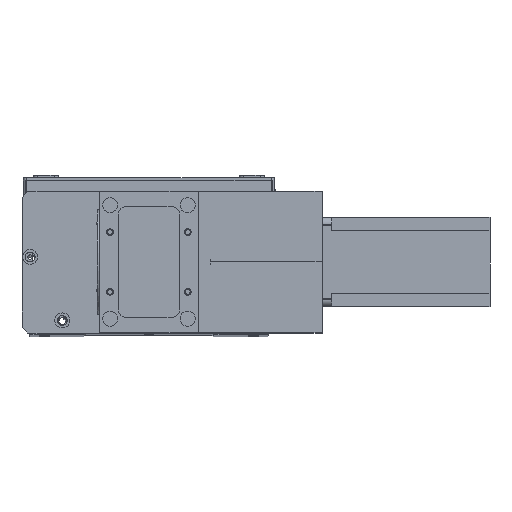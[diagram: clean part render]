
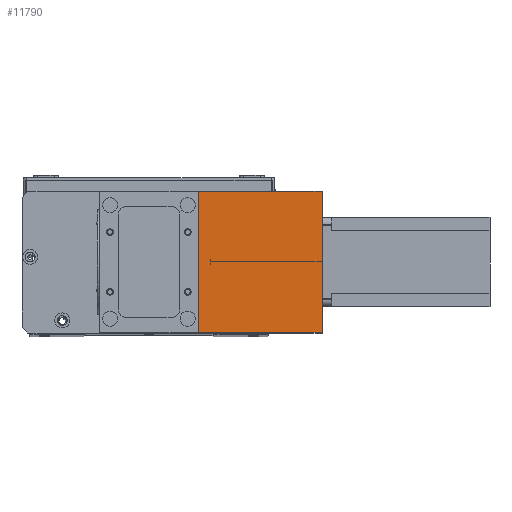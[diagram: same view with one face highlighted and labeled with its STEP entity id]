
A CAD part, top view. The second image highlights one B-rep face of the part: STEP entity #11790.
In plain terms, the highlighted planar face has unit normal (0, 0, 1) as drawn and (1, 0, 0) by its records, which use the part's own axes.
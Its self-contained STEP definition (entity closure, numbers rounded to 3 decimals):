
#910 = VERTEX_POINT ( 'NONE', #5971 ) ;
#1326 = ORIENTED_EDGE ( 'NONE', *, *, #28140, .F. ) ;
#2435 = LINE ( 'NONE', #11270, #25469 ) ;
#4194 = LINE ( 'NONE', #21788, #20906 ) ;
#5971 = CARTESIAN_POINT ( 'NONE',  ( 82., 0., 83. ) ) ;
#6182 = CARTESIAN_POINT ( 'NONE',  ( 82., 95., 83. ) ) ;
#7580 = VERTEX_POINT ( 'NONE', #8162 ) ;
#8162 = CARTESIAN_POINT ( 'NONE',  ( 82., 0., 0. ) ) ;
#11270 = CARTESIAN_POINT ( 'NONE',  ( 82., 0., 83. ) ) ;
#11790 = ADVANCED_FACE ( 'NONE', ( #14701 ), #24870, .F. ) ;
#12878 = VECTOR ( 'NONE', #23462, 1000. ) ;
#14623 = CARTESIAN_POINT ( 'NONE',  ( 82., 0., 0. ) ) ;
#14701 = FACE_OUTER_BOUND ( 'NONE', #18408, .T. ) ;
#15785 = ORIENTED_EDGE ( 'NONE', *, *, #27544, .T. ) ;
#16477 = AXIS2_PLACEMENT_3D ( 'NONE', #23191, #22987, #22964 ) ;
#16757 = DIRECTION ( 'NONE',  ( 0., 1., 0. ) ) ;
#18408 = EDGE_LOOP ( 'NONE', ( #20198, #28179, #1326, #15785 ) ) ;
#18541 = LINE ( 'NONE', #6182, #12878 ) ;
#19414 = CARTESIAN_POINT ( 'NONE',  ( 82., 95., 83. ) ) ;
#20198 = ORIENTED_EDGE ( 'NONE', *, *, #27890, .T. ) ;
#20906 = VECTOR ( 'NONE', #28078, 1000. ) ;
#20913 = VERTEX_POINT ( 'NONE', #23035 ) ;
#21788 = CARTESIAN_POINT ( 'NONE',  ( 82., 0., 83. ) ) ;
#21989 = DIRECTION ( 'NONE',  ( 0., 0., -1. ) ) ;
#22964 = DIRECTION ( 'NONE',  ( 0., 0., 1. ) ) ;
#22987 = DIRECTION ( 'NONE',  ( -1., 0., 0. ) ) ;
#23035 = CARTESIAN_POINT ( 'NONE',  ( 82., 95., 0. ) ) ;
#23191 = CARTESIAN_POINT ( 'NONE',  ( 82., 0., 83. ) ) ;
#23462 = DIRECTION ( 'NONE',  ( 0., 0., -1. ) ) ;
#24870 = PLANE ( 'NONE',  #16477 ) ;
#25013 = VERTEX_POINT ( 'NONE', #19414 ) ;
#25469 = VECTOR ( 'NONE', #21989, 1000. ) ;
#26101 = VECTOR ( 'NONE', #16757, 1000. ) ;
#26770 = LINE ( 'NONE', #14623, #26101 ) ;
#27544 = EDGE_CURVE ( 'NONE', #910, #7580, #2435, .T. ) ;
#27890 = EDGE_CURVE ( 'NONE', #7580, #20913, #26770, .T. ) ;
#27986 = EDGE_CURVE ( 'NONE', #25013, #20913, #18541, .T. ) ;
#28078 = DIRECTION ( 'NONE',  ( 0., 1., 0. ) ) ;
#28140 = EDGE_CURVE ( 'NONE', #910, #25013, #4194, .T. ) ;
#28179 = ORIENTED_EDGE ( 'NONE', *, *, #27986, .F. ) ;
